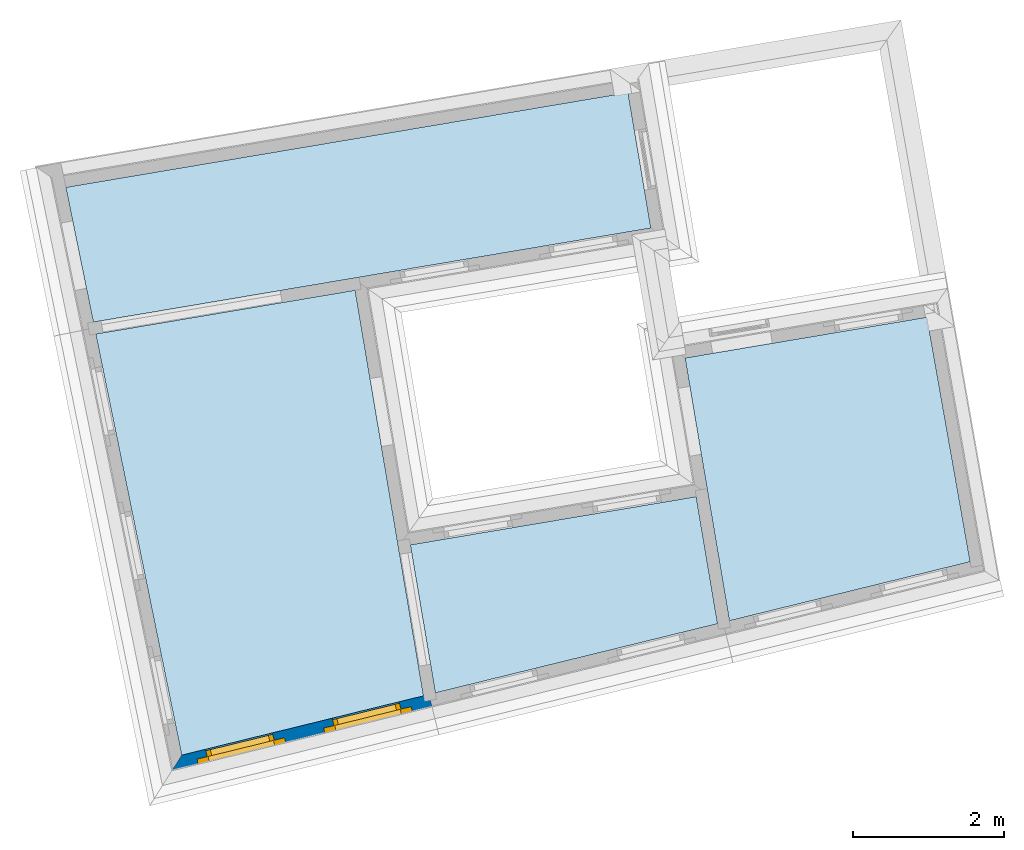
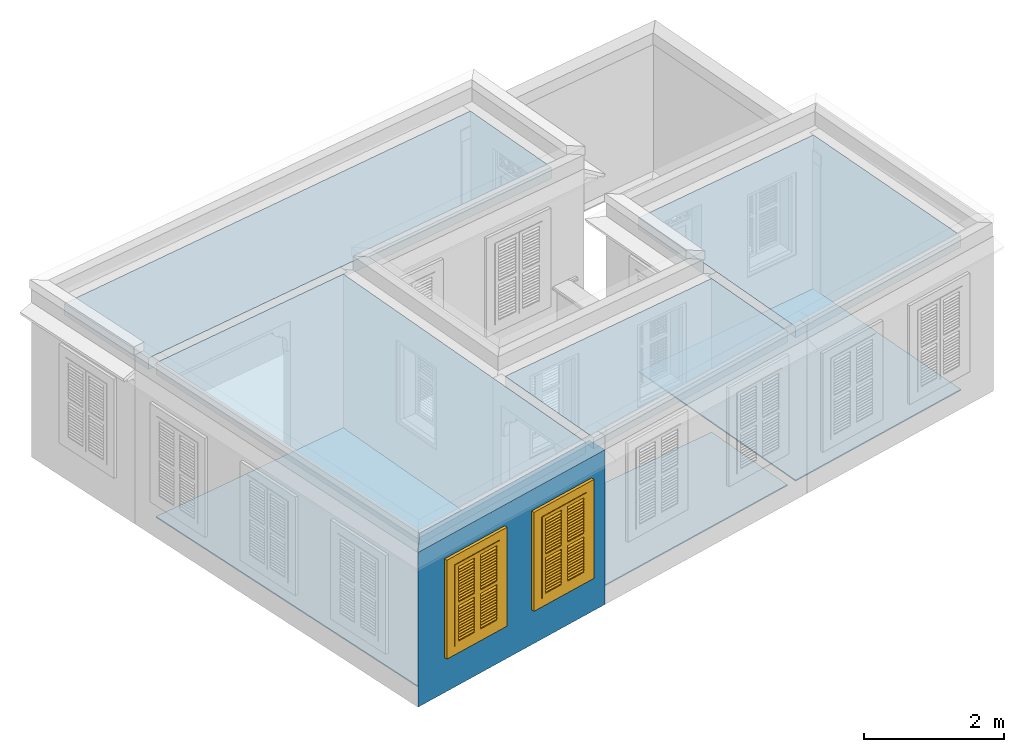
# One storey, part 1 of 12: 7 slabs, 2 windows, 1 wall, 2 openings.
"""IFC4 building model written with IfcOpenShell, lengths in metres."""

from ifc_helpers import new_model, si_unit, frame, origin, origin_with_axes, place, context, subcontext, project, spatial, polyline, outline, extrude, faceted_brep, source, transform, mapped, material, layer, layer_set, layer_usage, type_object, type_shapes, element, fill, save


model = new_model("IFC4")

# Units and contexts
model_context = context("Model", 3, world=origin_with_axes())
body_context = subcontext(model_context, "Body", "Model", "MODEL_VIEW")
ifc_project = project(units=[si_unit("PLANEANGLEUNIT", "RADIAN"), si_unit("MASSUNIT", "GRAM", prefix="KILO"), si_unit("FORCEUNIT", "NEWTON", prefix="KILO"), si_unit("LENGTHUNIT", "METRE"), si_unit("AREAUNIT", "SQUARE_METRE"), si_unit("VOLUMEUNIT", "CUBIC_METRE")], contexts=[model_context, model_context])

# Site, building, storey
site_placement = place(None, origin_with_axes())
site = spatial("IfcSite", under=ifc_project, at=site_placement, Name="Site plot-6", CompositionType="ELEMENT")
building_placement = place(None, origin_with_axes())
building = spatial("IfcBuilding", under=site, at=building_placement, Name="Building plot-6", CompositionType="ELEMENT")
storey_placement = place(None, frame((0.0, 0.0, 3.6), z_axis=(0.0, 0.0, 1.0), x_axis=(1.0, 0.0, 0.0)))
storey = spatial("IfcBuildingStorey", under=building, at=storey_placement, Name="plot-6 1", CompositionType="ELEMENT", Elevation=3.6)

# Slabs
slab_1_placement = place(storey_placement, frame((-2.65448575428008, 1.67836600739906, 2.5)))
element("IfcSlab", 1, at=slab_1_placement, inside=storey, Name="My Slab", ObjectType="Slab", PredefinedType="FLOOR", context=body_context, shape_type="SweptSolid", body=[
    extrude(outline(polyline([(0.0, 0.0), (0.585438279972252, -3.47151243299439), (3.76574565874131, -2.69147856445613), (3.19492557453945, 0.538794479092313), (0.0, 0.0)])), origin_with_axes(), (0.0, 0.0, 1.0), 0.2),
])
slab_2_placement = place(storey_placement, frame((-2.65448575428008, 1.67836600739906, 0.0)))
element("IfcSlab", 2, at=slab_2_placement, inside=storey, Name="My Slab", ObjectType="Slab", PredefinedType="FLOOR", context=body_context, shape_type="SweptSolid", body=[
    extrude(outline(polyline([(0.0, 0.0), (0.585438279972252, -3.47151243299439), (3.76574565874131, -2.69147856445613), (3.19492557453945, 0.538794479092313), (0.0, 0.0)])), origin_with_axes(), (0.0, 0.0, 1.0), 0.02),
])
slab_3_placement = place(storey_placement, frame((-6.28261815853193, -0.789783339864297, 2.5)))
element("IfcSlab", 3, at=slab_3_placement, inside=storey, Name="My Slab", ObjectType="Slab", PredefinedType="FLOOR", context=body_context, shape_type="SweptSolid", body=[
    extrude(outline(polyline([(0.0, 0.0), (0.329848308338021, -1.9559235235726), (4.05775633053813, -1.04157966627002), (3.77475088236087, 0.636576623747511), (0.0, 0.0)])), origin_with_axes(), (0.0, 0.0, 1.0), 0.2),
])
slab_4_placement = place(storey_placement, frame((-6.28261815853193, -0.789783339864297, 0.0)))
element("IfcSlab", 4, at=slab_4_placement, inside=storey, Name="My Slab", ObjectType="Slab", PredefinedType="FLOOR", context=body_context, shape_type="SweptSolid", body=[
    extrude(outline(polyline([(0.0, 0.0), (0.329848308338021, -1.9559235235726), (4.05775633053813, -1.04157966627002), (3.77475088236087, 0.636576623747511), (0.0, 0.0)])), origin_with_axes(), (0.0, 0.0, 1.0), 0.02),
])
slab_5_placement = place(storey_placement, frame((-3.10605318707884, 3.39389619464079, 2.5)))
element("IfcSlab", 5, at=slab_5_placement, inside=storey, Name="My Slab", ObjectType="Slab", PredefinedType="FLOOR", context=body_context, shape_type="SweptSolid", body=[
    extrude(outline(polyline([(0.0, 0.0), (-0.301954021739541, 1.7905169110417), (-7.72700237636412, 0.538351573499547), (-7.36373226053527, -1.24182494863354), (0.0, 0.0)])), origin_with_axes(), (0.0, 0.0, 1.0), 0.2),
])
slab_6_placement = place(storey_placement, frame((-7.01196948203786, 2.5729405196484, 2.5)))
element("IfcSlab", 6, at=slab_6_placement, inside=storey, Name="My Slab", ObjectType="Slab", PredefinedType="FLOOR", context=body_context, shape_type="SweptSolid", body=[
    extrude(outline(polyline([(0.0, 0.0), (-3.42580625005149, -0.577730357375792), (-2.29069062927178, -6.14027483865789), (0.90338527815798, -5.35686396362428), (0.0, 0.0)])), origin_with_axes(), (0.0, 0.0, 1.0), 0.2),
])
slab_7_placement = place(storey_placement, frame((-7.01196948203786, 2.5729405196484, 0.0)))
element("IfcSlab", 7, at=slab_7_placement, inside=storey, Name="My Slab", ObjectType="Slab", PredefinedType="FLOOR", context=body_context, shape_type="SweptSolid", body=[
    extrude(outline(polyline([(0.0, 0.0), (-3.42580625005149, -0.577730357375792), (-2.29069062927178, -6.14027483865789), (0.90338527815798, -5.35686396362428), (0.0, 0.0)])), origin_with_axes(), (0.0, 0.0, 1.0), 0.02),
])

# Wall, openings, windows
ifc_material = material(Name="Masonry")
ifc_layer = layer(ifc_material, 0.33, ventilated=False)
ifc_layer_set = layer_set([ifc_layer], Name="exterior_0.08_0.25")
ifc_layer_usage = layer_usage(ifc_layer_set, "AXIS2", "POSITIVE", -0.25)
wall_type = type_object("IfcWallType", Name="exterior_0.08_0.25", PredefinedType="SOLIDWALL", material=ifc_layer_set)
wall_placement = place(storey_placement, frame((-9.36440922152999, -3.66485067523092, 0.0), z_axis=(0.0, 0.0, 1.0), x_axis=(0.971213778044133, 0.238209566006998, 0.0)))
wall = element("IfcWall", 8, at=wall_placement, inside=storey, type_object=wall_type, material=ifc_layer_usage, Name="exterior", context=body_context, shape_type="SweptSolid", body=[
    extrude(outline(polyline([(0.0832009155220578, 0.0800000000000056), (-0.260002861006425, -0.250000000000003), (3.44627686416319, -0.25), (3.44627686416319, 0.08), (0.0832009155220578, 0.0800000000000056)])), origin_with_axes(), (0.0, 0.0, 1.0), 2.7),
])
opening_1_placement = place(wall_placement, frame((0.406569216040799, 0.0, 0.75)))
opening_1 = element("IfcOpeningElement", 9, at=opening_1_placement, cuts=wall, Name="My Opening", ObjectType="Opening", context=body_context, shape_type="SweptSolid", body=[
    extrude(outline(polyline([(0.0, -0.27), (0.91, -0.27), (0.91, 1.1), (-4.9960036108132e-16, 1.1), (0.0, -0.27)])), origin_with_axes(), (0.0, 0.0, 1.0), 1.445),
])
opening_2_placement = place(wall_placement, frame((2.12970764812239, 0.0, 0.75)))
opening_2 = element("IfcOpeningElement", 10, at=opening_2_placement, cuts=wall, Name="My Opening", ObjectType="Opening", context=body_context, shape_type="SweptSolid", body=[
    extrude(outline(polyline([(0.0, -0.27), (0.91, -0.27), (0.910000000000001, 1.1), (4.44089209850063e-16, 1.1), (0.0, -0.27)])), origin_with_axes(), (0.0, 0.0, 1.0), 1.445),
])
window_type = type_object("IfcWindowType", Name="shuttered_shorter", PartitioningType="DOUBLE_PANEL_HORIZONTAL", PredefinedType="NOTDEFINED")
shared_shape = source(origin(), body_context, "Body", "Brep", [
    faceted_brep([(0.393, 0.0, 0.622), (0.074, 0.0, 0.622), (0.074, 0.0, 0.632), (0.393, 0.0, 0.632), (0.074, -0.04, 0.592), (0.393, -0.04, 0.592), (0.393, -0.04, 0.582), (0.074, -0.04, 0.582), (0.517, 0.0, 0.682), (0.836, 0.0, 0.682), (0.836, 0.0, 0.672), (0.517, 0.0, 0.672), (0.517, -0.04, 0.642), (0.836, -0.04, 0.642), (0.836, -0.04, 0.632), (0.517, -0.04, 0.632), (0.517, 0.0, 0.632), (0.836, 0.0, 0.632), (0.836, 0.0, 0.622), (0.517, 0.0, 0.622), (0.517, -0.04, 0.592), (0.836, -0.04, 0.592), (0.836, -0.04, 0.582), (0.517, -0.04, 0.582), (0.517, 0.0, 0.232), (0.836, 0.0, 0.232), (0.836, 0.0, 0.222), (0.517, 0.0, 0.222), (0.517, -0.04, 0.192), (0.836, -0.04, 0.192), (0.836, -0.04, 0.182), (0.517, -0.04, 0.182), (0.517, 0.0, 0.532), (0.836, 0.0, 0.532), (0.836, 0.0, 0.522), (0.517, 0.0, 0.522), (0.517, -0.04, 0.492), (0.836, -0.04, 0.492), (0.836, -0.04, 0.482), (0.517, -0.04, 0.482), (0.517, 0.0, 0.482), (0.836, 0.0, 0.482), (0.836, 0.0, 0.472), (0.517, 0.0, 0.472), (0.517, -0.04, 0.442), (0.836, -0.04, 0.442), (0.836, -0.04, 0.432), (0.517, -0.04, 0.432), (0.517, 0.0, 0.582), (0.836, 0.0, 0.582), (0.836, 0.0, 0.572), (0.517, 0.0, 0.572), (0.517, -0.04, 0.542), (0.836, -0.04, 0.542), (0.836, -0.04, 0.532), (0.517, -0.04, 0.532), (0.517, 0.0, 0.182), (0.836, 0.0, 0.182), (0.836, 0.0, 0.172), (0.517, 0.0, 0.172), (0.517, -0.04, 0.142), (0.836, -0.04, 0.142), (0.836, -0.04, 0.132), (0.517, -0.04, 0.132), (0.517, 0.0, 0.382), (0.836, 0.0, 0.382), (0.836, 0.0, 0.372), (0.517, 0.0, 0.372), (0.517, -0.04, 0.342), (0.836, -0.04, 0.342), (0.836, -0.04, 0.332), (0.517, -0.04, 0.332), (0.517, 0.0, 0.432), (0.836, 0.0, 0.432), (0.836, 0.0, 0.422), (0.517, 0.0, 0.422), (0.517, -0.04, 0.392), (0.836, -0.04, 0.392), (0.836, -0.04, 0.382), (0.517, -0.04, 0.382), (0.517, 0.0, 0.132), (0.836, 0.0, 0.132), (0.836, 0.0, 0.122), (0.517, 0.0, 0.122), (0.517, -0.04, 0.092), (0.836, -0.04, 0.092), (0.836, -0.04, 0.082), (0.517, -0.04, 0.082), (0.517, 0.0, 0.282), (0.836, 0.0, 0.282), (0.836, 0.0, 0.272), (0.517, 0.0, 0.272), (0.517, -0.04, 0.242), (0.836, -0.04, 0.242), (0.836, -0.04, 0.232), (0.517, -0.04, 0.232), (0.517, 0.0, 0.332), (0.836, 0.0, 0.332), (0.836, 0.0, 0.322), (0.517, 0.0, 0.322), (0.517, -0.04, 0.292), (0.836, -0.04, 0.292), (0.836, -0.04, 0.282), (0.517, -0.04, 0.282), (0.517, 0.0, 1.362667), (0.836, 0.0, 1.362667), (0.836, 0.0, 1.352667), (0.517, 0.0, 1.352667), (0.517, -0.04, 1.322667), (0.836, -0.04, 1.322667), (0.836, -0.04, 1.312667), (0.517, -0.04, 1.312667), (0.517, 0.0, 1.312667), (0.836, 0.0, 1.312667), (0.836, 0.0, 1.302667), (0.517, 0.0, 1.302667), (0.517, -0.04, 1.272667), (0.836, -0.04, 1.272667), (0.836, -0.04, 1.262667), (0.517, -0.04, 1.262667), (0.517, 0.0, 0.912667), (0.836, 0.0, 0.912667), (0.836, 0.0, 0.902667), (0.517, 0.0, 0.902667), (0.517, -0.04, 0.872667), (0.836, -0.04, 0.872667), (0.836, -0.04, 0.862667), (0.517, -0.04, 0.862667), (0.517, 0.0, 1.212667), (0.836, 0.0, 1.212667), (0.836, 0.0, 1.202667), (0.517, 0.0, 1.202667), (0.517, -0.04, 1.172667), (0.836, -0.04, 1.172667), (0.836, -0.04, 1.162667), (0.517, -0.04, 1.162667), (0.517, 0.0, 1.162667), (0.836, 0.0, 1.162667), (0.836, 0.0, 1.152667), (0.517, 0.0, 1.152667), (0.517, -0.04, 1.122667), (0.836, -0.04, 1.122667), (0.836, -0.04, 1.112667), (0.517, -0.04, 1.112667), (0.517, 0.0, 1.262667), (0.836, 0.0, 1.262667), (0.836, 0.0, 1.252667), (0.517, 0.0, 1.252667), (0.517, -0.04, 1.222667), (0.836, -0.04, 1.222667), (0.836, -0.04, 1.212667), (0.517, -0.04, 1.212667), (0.517, 0.0, 0.862667), (0.836, 0.0, 0.862667), (0.836, 0.0, 0.852667), (0.517, 0.0, 0.852667), (0.517, -0.04, 0.822667), (0.836, -0.04, 0.822667), (0.836, -0.04, 0.812667), (0.517, -0.04, 0.812667), (0.517, 0.0, 1.062667), (0.836, 0.0, 1.062667), (0.836, 0.0, 1.052667), (0.517, 0.0, 1.052667), (0.517, -0.04, 1.022667), (0.836, -0.04, 1.022667), (0.836, -0.04, 1.012667), (0.517, -0.04, 1.012667), (0.517, 0.0, 1.112667), (0.836, 0.0, 1.112667), (0.836, 0.0, 1.102667), (0.517, 0.0, 1.102667), (0.517, -0.04, 1.072667), (0.836, -0.04, 1.072667), (0.836, -0.04, 1.062667), (0.517, -0.04, 1.062667), (0.517, 0.0, 0.812667), (0.836, 0.0, 0.812667), (0.836, 0.0, 0.802667), (0.517, 0.0, 0.802667), (0.517, -0.04, 0.772667), (0.836, -0.04, 0.772667), (0.836, -0.04, 0.762667), (0.517, -0.04, 0.762667), (0.517, 0.0, 0.962667), (0.836, 0.0, 0.962667), (0.836, 0.0, 0.952667), (0.517, 0.0, 0.952667), (0.517, -0.04, 0.922667), (0.836, -0.04, 0.922667), (0.836, -0.04, 0.912667), (0.517, -0.04, 0.912667), (0.517, 0.0, 1.012667), (0.836, 0.0, 1.012667), (0.836, 0.0, 1.002667), (0.517, 0.0, 1.002667), (0.517, -0.04, 0.972667), (0.836, -0.04, 0.972667), (0.836, -0.04, 0.962667), (0.517, -0.04, 0.962667), (0.074, 0.0, 0.682), (0.393, 0.0, 0.682), (0.393, 0.0, 0.672), (0.074, 0.0, 0.672), (0.074, -0.04, 0.642), (0.393, -0.04, 0.642), (0.393, -0.04, 0.632), (0.074, -0.04, 0.632), (0.074, 0.0, 0.232), (0.393, 0.0, 0.232), (0.393, 0.0, 0.222), (0.074, 0.0, 0.222), (0.074, -0.04, 0.192), (0.393, -0.04, 0.192), (0.393, -0.04, 0.182), (0.074, -0.04, 0.182), (0.074, 0.0, 0.532), (0.393, 0.0, 0.532), (0.393, 0.0, 0.522), (0.074, 0.0, 0.522), (0.074, -0.04, 0.492), (0.393, -0.04, 0.492), (0.393, -0.04, 0.482), (0.074, -0.04, 0.482), (0.074, 0.0, 0.482), (0.393, 0.0, 0.482), (0.393, 0.0, 0.472), (0.074, 0.0, 0.472), (0.074, -0.04, 0.442), (0.393, -0.04, 0.442), (0.393, -0.04, 0.432), (0.074, -0.04, 0.432), (0.074, 0.0, 0.582), (0.393, 0.0, 0.582), (0.393, 0.0, 0.572), (0.074, 0.0, 0.572), (0.074, -0.04, 0.542), (0.393, -0.04, 0.542), (0.393, -0.04, 0.532), (0.074, -0.04, 0.532), (0.074, 0.0, 0.182), (0.393, 0.0, 0.182), (0.393, 0.0, 0.172), (0.074, 0.0, 0.172), (0.074, -0.04, 0.142), (0.393, -0.04, 0.142), (0.393, -0.04, 0.132), (0.074, -0.04, 0.132), (0.074, 0.0, 0.382), (0.393, 0.0, 0.382), (0.393, 0.0, 0.372), (0.074, 0.0, 0.372), (0.074, -0.04, 0.342), (0.393, -0.04, 0.342), (0.393, -0.04, 0.332), (0.074, -0.04, 0.332), (0.074, 0.0, 0.432), (0.393, 0.0, 0.432), (0.393, 0.0, 0.422), (0.074, 0.0, 0.422), (0.074, -0.04, 0.392), (0.393, -0.04, 0.392), (0.393, -0.04, 0.382), (0.074, -0.04, 0.382), (0.074, 0.0, 0.132), (0.393, 0.0, 0.132), (0.393, 0.0, 0.122), (0.074, 0.0, 0.122), (0.074, -0.04, 0.092), (0.393, -0.04, 0.092), (0.393, -0.04, 0.082), (0.074, -0.04, 0.082), (0.074, 0.0, 0.282), (0.393, 0.0, 0.282), (0.393, 0.0, 0.272), (0.074, 0.0, 0.272), (0.074, -0.04, 0.242), (0.393, -0.04, 0.242), (0.393, -0.04, 0.232), (0.074, -0.04, 0.232), (0.074, 0.0, 0.332), (0.393, 0.0, 0.332), (0.393, 0.0, 0.322), (0.074, 0.0, 0.322), (0.074, -0.04, 0.292), (0.393, -0.04, 0.292), (0.393, -0.04, 0.282), (0.074, -0.04, 0.282), (0.074, 0.0, 1.362667), (0.393, 0.0, 1.362667), (0.393, 0.0, 1.352667), (0.074, 0.0, 1.352667), (0.074, -0.04, 1.322667), (0.393, -0.04, 1.322667), (0.393, -0.04, 1.312667), (0.074, -0.04, 1.312667), (0.074, 0.0, 1.312667), (0.393, 0.0, 1.312667), (0.393, 0.0, 1.302667), (0.074, 0.0, 1.302667), (0.074, -0.04, 1.272667), (0.393, -0.04, 1.272667), (0.393, -0.04, 1.262667), (0.074, -0.04, 1.262667), (0.074, 0.0, 0.912667), (0.393, 0.0, 0.912667), (0.393, 0.0, 0.902667), (0.074, 0.0, 0.902667), (0.074, -0.04, 0.872667), (0.393, -0.04, 0.872667), (0.393, -0.04, 0.862667), (0.074, -0.04, 0.862667), (0.074, 0.0, 1.212667), (0.393, 0.0, 1.212667), (0.393, 0.0, 1.202667), (0.074, 0.0, 1.202667), (0.074, -0.04, 1.172667), (0.393, -0.04, 1.172667), (0.393, -0.04, 1.162667), (0.074, -0.04, 1.162667), (0.074, 0.0, 1.162667), (0.393, 0.0, 1.162667), (0.393, 0.0, 1.152667), (0.074, 0.0, 1.152667), (0.074, -0.04, 1.122667), (0.393, -0.04, 1.122667), (0.393, -0.04, 1.112667), (0.074, -0.04, 1.112667), (0.074, 0.0, 1.262667), (0.393, 0.0, 1.262667), (0.393, 0.0, 1.252667), (0.074, 0.0, 1.252667), (0.074, -0.04, 1.222667), (0.393, -0.04, 1.222667), (0.393, -0.04, 1.212667), (0.074, -0.04, 1.212667), (0.074, 0.0, 0.862667), (0.393, 0.0, 0.862667), (0.393, 0.0, 0.852667), (0.074, 0.0, 0.852667), (0.074, -0.04, 0.822667), (0.393, -0.04, 0.822667), (0.393, -0.04, 0.812667), (0.074, -0.04, 0.812667), (0.074, 0.0, 1.062667), (0.393, 0.0, 1.062667), (0.393, 0.0, 1.052667), (0.074, 0.0, 1.052667), (0.074, -0.04, 1.022667), (0.393, -0.04, 1.022667), (0.393, -0.04, 1.012667), (0.074, -0.04, 1.012667), (0.074, 0.0, 1.112667), (0.393, 0.0, 1.112667), (0.393, 0.0, 1.102667), (0.074, 0.0, 1.102667), (0.074, -0.04, 1.072667), (0.393, -0.04, 1.072667), (0.393, -0.04, 1.062667), (0.074, -0.04, 1.062667), (0.074, 0.0, 0.812667), (0.393, 0.0, 0.812667), (0.393, 0.0, 0.802667), (0.074, 0.0, 0.802667), (0.074, -0.04, 0.772667), (0.393, -0.04, 0.772667), (0.393, -0.04, 0.762667), (0.074, -0.04, 0.762667), (0.074, 0.0, 0.962667), (0.393, 0.0, 0.962667), (0.393, 0.0, 0.952667), (0.074, 0.0, 0.952667), (0.074, -0.04, 0.922667), (0.393, -0.04, 0.922667), (0.393, -0.04, 0.912667), (0.074, -0.04, 0.912667), (0.074, 0.0, 1.012667), (0.393, 0.0, 1.012667), (0.393, 0.0, 1.002667), (0.074, 0.0, 1.002667), (0.074, -0.04, 0.972667), (0.393, -0.04, 0.972667), (0.393, -0.04, 0.962667), (0.074, -0.04, 0.962667), (0.517, -0.04, 0.072), (0.457, -0.04, 0.012), (0.896, -0.04, 0.012), (0.836, -0.04, 0.072), (0.457, -0.04, 0.692667), (0.517, -0.04, 0.692667), (0.457, 0.0, 0.012), (0.896, 0.0, 0.012), (0.836, -0.04, 0.692667), (0.896, -0.04, 0.692667), (0.836, 0.0, 0.072), (0.517, 0.0, 0.072), (0.457, 0.0, 0.692667), (0.517, 0.0, 0.692667), (0.517, -0.04, 0.752666), (0.457, -0.04, 0.752666), (0.896, 0.0, 0.692667), (0.836, 0.0, 0.692667), (0.836, -0.04, 0.752666), (0.896, -0.04, 0.752666), (0.457, 0.0, 0.752666), (0.457, -0.04, 1.433333), (0.517, -0.04, 1.373333), (0.896, 0.0, 0.752666), (0.836, -0.04, 1.373333), (0.896, -0.04, 1.433333), (0.457, 0.0, 1.433333), (0.517, 0.0, 0.752666), (0.836, 0.0, 0.752666), (0.517, 0.0, 1.373333), (0.896, 0.0, 1.433333), (0.836, 0.0, 1.373333), (0.074, -0.04, 0.072), (0.014, -0.04, 0.012), (0.453, -0.04, 0.012), (0.393, -0.04, 0.072), (0.014, -0.04, 0.692667), (0.074, -0.04, 0.692667), (0.014, 0.0, 0.012), (0.453, 0.0, 0.012), (0.393, -0.04, 0.692667), (0.453, -0.04, 0.692667), (0.393, 0.0, 0.072), (0.074, 0.0, 0.072), (0.014, 0.0, 0.692667), (0.074, 0.0, 0.692667), (0.074, -0.04, 0.752666), (0.014, -0.04, 0.752666), (0.453, 0.0, 0.692667), (0.393, 0.0, 0.692667), (0.393, -0.04, 0.752666), (0.453, -0.04, 0.752666), (0.014, 0.0, 0.752666), (0.014, -0.04, 1.433333), (0.074, -0.04, 1.373333), (0.453, 0.0, 0.752666), (0.393, -0.04, 1.373333), (0.453, -0.04, 1.433333), (0.014, 0.0, 1.433333), (0.074, 0.0, 0.752666), (0.393, 0.0, 0.752666), (0.074, 0.0, 1.373333), (0.453, 0.0, 1.433333), (0.393, 0.0, 1.373333), (0.0, 0.33, 1.445), (0.91, 0.33, 1.445), (0.85, 0.33, 1.385), (0.06, 0.33, 1.385), (0.91, 0.25, 1.445), (0.0, 0.25, 1.445), (0.91, 0.25, 1.445), (0.85, 0.33, 0.06), (0.91, 0.33, 0.0), (0.85, 0.25, 1.385), (0.06, 0.25, 1.385), (0.0, 0.33, 0.0), (0.06, 0.33, 0.06), (0.0, 0.25, 0.0), (0.91, 0.25, 0.0), (0.85, 0.25, 0.06), (0.06, 0.25, 0.06), (1.05, 0.25, 1.585), (-0.14, 0.25, 1.585), (-0.14, -0.03, 1.585), (1.05, -0.03, 1.585), (0.9, -0.03, 1.435), (0.01, -0.03, 1.435), (0.01, 0.25, 1.435), (0.9, 0.25, 1.435), (0.9, 0.25, 0.01), (0.9, -0.03, 0.01), (1.05, -0.03, -0.14), (1.05, 0.25, -0.14), (0.01, -0.03, 0.01), (0.01, 0.25, 0.01), (-0.14, -0.03, -0.14), (-0.14, 0.25, -0.14)], [[[0, 1, 2, 3]], [[4, 5, 3, 2]], [[5, 6, 0, 3]], [[1, 0, 6, 7]], [[2, 1, 7, 4]], [[5, 4, 7, 6]], [[8, 9, 10, 11]], [[12, 13, 9, 8]], [[13, 14, 10, 9]], [[14, 15, 11, 10]], [[15, 12, 8, 11]], [[13, 12, 15, 14]], [[16, 17, 18, 19]], [[20, 21, 17, 16]], [[21, 22, 18, 17]], [[22, 23, 19, 18]], [[23, 20, 16, 19]], [[21, 20, 23, 22]], [[24, 25, 26, 27]], [[28, 29, 25, 24]], [[29, 30, 26, 25]], [[30, 31, 27, 26]], [[31, 28, 24, 27]], [[29, 28, 31, 30]], [[32, 33, 34, 35]], [[36, 37, 33, 32]], [[37, 38, 34, 33]], [[38, 39, 35, 34]], [[39, 36, 32, 35]], [[37, 36, 39, 38]], [[40, 41, 42, 43]], [[44, 45, 41, 40]], [[45, 46, 42, 41]], [[46, 47, 43, 42]], [[47, 44, 40, 43]], [[45, 44, 47, 46]], [[48, 49, 50, 51]], [[52, 53, 49, 48]], [[53, 54, 50, 49]], [[54, 55, 51, 50]], [[55, 52, 48, 51]], [[53, 52, 55, 54]], [[56, 57, 58, 59]], [[60, 61, 57, 56]], [[61, 62, 58, 57]], [[62, 63, 59, 58]], [[63, 60, 56, 59]], [[61, 60, 63, 62]], [[64, 65, 66, 67]], [[68, 69, 65, 64]], [[69, 70, 66, 65]], [[70, 71, 67, 66]], [[71, 68, 64, 67]], [[69, 68, 71, 70]], [[72, 73, 74, 75]], [[76, 77, 73, 72]], [[77, 78, 74, 73]], [[78, 79, 75, 74]], [[79, 76, 72, 75]], [[77, 76, 79, 78]], [[80, 81, 82, 83]], [[84, 85, 81, 80]], [[85, 86, 82, 81]], [[86, 87, 83, 82]], [[87, 84, 80, 83]], [[85, 84, 87, 86]], [[88, 89, 90, 91]], [[92, 93, 89, 88]], [[93, 94, 90, 89]], [[94, 95, 91, 90]], [[95, 92, 88, 91]], [[93, 92, 95, 94]], [[96, 97, 98, 99]], [[100, 101, 97, 96]], [[101, 102, 98, 97]], [[102, 103, 99, 98]], [[103, 100, 96, 99]], [[101, 100, 103, 102]], [[104, 105, 106, 107]], [[108, 109, 105, 104]], [[109, 110, 106, 105]], [[110, 111, 107, 106]], [[111, 108, 104, 107]], [[109, 108, 111, 110]], [[112, 113, 114, 115]], [[116, 117, 113, 112]], [[117, 118, 114, 113]], [[118, 119, 115, 114]], [[119, 116, 112, 115]], [[117, 116, 119, 118]], [[120, 121, 122, 123]], [[124, 125, 121, 120]], [[125, 126, 122, 121]], [[126, 127, 123, 122]], [[127, 124, 120, 123]], [[125, 124, 127, 126]], [[128, 129, 130, 131]], [[132, 133, 129, 128]], [[133, 134, 130, 129]], [[134, 135, 131, 130]], [[135, 132, 128, 131]], [[133, 132, 135, 134]], [[136, 137, 138, 139]], [[140, 141, 137, 136]], [[141, 142, 138, 137]], [[142, 143, 139, 138]], [[139, 143, 140, 136]], [[141, 140, 143, 142]], [[144, 145, 146, 147]], [[148, 149, 145, 144]], [[149, 150, 146, 145]], [[150, 151, 147, 146]], [[151, 148, 144, 147]], [[149, 148, 151, 150]], [[152, 153, 154, 155]], [[156, 157, 153, 152]], [[157, 158, 154, 153]], [[158, 159, 155, 154]], [[159, 156, 152, 155]], [[157, 156, 159, 158]], [[160, 161, 162, 163]], [[164, 165, 161, 160]], [[165, 166, 162, 161]], [[166, 167, 163, 162]], [[167, 164, 160, 163]], [[165, 164, 167, 166]], [[168, 169, 170, 171]], [[172, 173, 169, 168]], [[173, 174, 170, 169]], [[174, 175, 171, 170]], [[175, 172, 168, 171]], [[173, 172, 175, 174]], [[176, 177, 178, 179]], [[180, 181, 177, 176]], [[181, 182, 178, 177]], [[182, 183, 179, 178]], [[183, 180, 176, 179]], [[181, 180, 183, 182]], [[184, 185, 186, 187]], [[188, 189, 185, 184]], [[189, 190, 186, 185]], [[190, 191, 187, 186]], [[191, 188, 184, 187]], [[189, 188, 191, 190]], [[192, 193, 194, 195]], [[196, 197, 193, 192]], [[197, 198, 194, 193]], [[198, 199, 195, 194]], [[199, 196, 192, 195]], [[197, 196, 199, 198]], [[200, 201, 202, 203]], [[204, 205, 201, 200]], [[205, 206, 202, 201]], [[206, 207, 203, 202]], [[207, 204, 200, 203]], [[205, 204, 207, 206]], [[208, 209, 210, 211]], [[212, 213, 209, 208]], [[213, 214, 210, 209]], [[214, 215, 211, 210]], [[215, 212, 208, 211]], [[213, 212, 215, 214]], [[216, 217, 218, 219]], [[220, 221, 217, 216]], [[221, 222, 218, 217]], [[222, 223, 219, 218]], [[223, 220, 216, 219]], [[221, 220, 223, 222]], [[224, 225, 226, 227]], [[228, 229, 225, 224]], [[229, 230, 226, 225]], [[230, 231, 227, 226]], [[231, 228, 224, 227]], [[229, 228, 231, 230]], [[232, 233, 234, 235]], [[236, 237, 233, 232]], [[237, 238, 234, 233]], [[238, 239, 235, 234]], [[239, 236, 232, 235]], [[237, 236, 239, 238]], [[240, 241, 242, 243]], [[244, 245, 241, 240]], [[245, 246, 242, 241]], [[246, 247, 243, 242]], [[247, 244, 240, 243]], [[245, 244, 247, 246]], [[248, 249, 250, 251]], [[252, 253, 249, 248]], [[253, 254, 250, 249]], [[254, 255, 251, 250]], [[255, 252, 248, 251]], [[253, 252, 255, 254]], [[256, 257, 258, 259]], [[260, 261, 257, 256]], [[261, 262, 258, 257]], [[262, 263, 259, 258]], [[263, 260, 256, 259]], [[261, 260, 263, 262]], [[264, 265, 266, 267]], [[268, 269, 265, 264]], [[269, 270, 266, 265]], [[270, 271, 267, 266]], [[271, 268, 264, 267]], [[269, 268, 271, 270]], [[272, 273, 274, 275]], [[276, 277, 273, 272]], [[277, 278, 274, 273]], [[278, 279, 275, 274]], [[279, 276, 272, 275]], [[277, 276, 279, 278]], [[280, 281, 282, 283]], [[284, 285, 281, 280]], [[285, 286, 282, 281]], [[286, 287, 283, 282]], [[287, 284, 280, 283]], [[285, 284, 287, 286]], [[288, 289, 290, 291]], [[292, 293, 289, 288]], [[293, 294, 290, 289]], [[294, 295, 291, 290]], [[295, 292, 288, 291]], [[293, 292, 295, 294]], [[296, 297, 298, 299]], [[300, 301, 297, 296]], [[301, 302, 298, 297]], [[302, 303, 299, 298]], [[303, 300, 296, 299]], [[301, 300, 303, 302]], [[304, 305, 306, 307]], [[308, 309, 305, 304]], [[309, 310, 306, 305]], [[310, 311, 307, 306]], [[311, 308, 304, 307]], [[309, 308, 311, 310]], [[312, 313, 314, 315]], [[316, 317, 313, 312]], [[317, 318, 314, 313]], [[318, 319, 315, 314]], [[319, 316, 312, 315]], [[317, 316, 319, 318]], [[320, 321, 322, 323]], [[324, 325, 321, 320]], [[325, 326, 322, 321]], [[326, 327, 323, 322]], [[327, 324, 320, 323]], [[325, 324, 327, 326]], [[328, 329, 330, 331]], [[332, 333, 329, 328]], [[333, 334, 330, 329]], [[334, 335, 331, 330]], [[335, 332, 328, 331]], [[333, 332, 335, 334]], [[336, 337, 338, 339]], [[340, 341, 337, 336]], [[341, 342, 338, 337]], [[342, 343, 339, 338]], [[343, 340, 336, 339]], [[341, 340, 343, 342]], [[344, 345, 346, 347]], [[348, 349, 345, 344]], [[349, 350, 346, 345]], [[350, 351, 347, 346]], [[351, 348, 344, 347]], [[349, 348, 351, 350]], [[352, 353, 354, 355]], [[356, 357, 353, 352]], [[357, 358, 354, 353]], [[358, 359, 355, 354]], [[359, 356, 352, 355]], [[357, 356, 359, 358]], [[360, 361, 362, 363]], [[364, 365, 361, 360]], [[365, 366, 362, 361]], [[366, 367, 363, 362]], [[367, 364, 360, 363]], [[365, 364, 367, 366]], [[368, 369, 370, 371]], [[372, 373, 369, 368]], [[373, 374, 370, 369]], [[374, 375, 371, 370]], [[375, 372, 368, 371]], [[373, 372, 375, 374]], [[376, 377, 378, 379]], [[380, 381, 377, 376]], [[381, 382, 378, 377]], [[382, 383, 379, 378]], [[383, 380, 376, 379]], [[381, 380, 383, 382]], [[384, 385, 386, 387]], [[388, 385, 384, 389]], [[390, 391, 386, 385]], [[392, 387, 386, 393]], [[384, 387, 394, 395]], [[390, 385, 388, 396]], [[389, 384, 395, 397]], [[389, 398, 399, 388]], [[390, 395, 394, 391]], [[400, 393, 386, 391]], [[387, 392, 401, 394]], [[402, 392, 393, 403]], [[396, 388, 399, 404]], [[390, 396, 397, 395]], [[392, 389, 397, 401]], [[398, 389, 392, 402]], [[405, 399, 398, 406]], [[394, 401, 400, 391]], [[407, 403, 393, 400]], [[408, 402, 403, 409]], [[404, 399, 405, 410]], [[411, 397, 396, 404]], [[397, 411, 412, 401]], [[398, 402, 412, 411]], [[406, 398, 411, 413]], [[405, 406, 408, 409]], [[401, 412, 407, 400]], [[414, 409, 403, 407]], [[402, 408, 415, 412]], [[405, 409, 414, 410]], [[404, 410, 413, 411]], [[408, 406, 413, 415]], [[412, 415, 414, 407]], [[413, 410, 414, 415]], [[416, 417, 418, 419]], [[420, 417, 416, 421]], [[422, 423, 418, 417]], [[424, 419, 418, 425]], [[416, 419, 426, 427]], [[422, 417, 420, 428]], [[421, 416, 427, 429]], [[421, 430, 431, 420]], [[422, 427, 426, 423]], [[432, 425, 418, 423]], [[419, 424, 433, 426]], [[434, 424, 425, 435]], [[428, 420, 431, 436]], [[422, 428, 429, 427]], [[424, 421, 429, 433]], [[430, 421, 424, 434]], [[437, 431, 430, 438]], [[426, 433, 432, 423]], [[439, 435, 425, 432]], [[440, 434, 435, 441]], [[436, 431, 437, 442]], [[443, 429, 428, 436]], [[429, 443, 444, 433]], [[430, 434, 444, 443]], [[438, 430, 443, 445]], [[437, 438, 440, 441]], [[433, 444, 439, 432]], [[446, 441, 435, 439]], [[434, 440, 447, 444]], [[437, 441, 446, 442]], [[436, 442, 445, 443]], [[440, 438, 445, 447]], [[444, 447, 446, 439]], [[445, 442, 446, 447]], [[448, 449, 450, 451]], [[452, 449, 448]], [[448, 453, 454]], [[448, 454, 452]], [[455, 450, 449, 456]], [[451, 450, 457, 458]], [[459, 448, 451, 460]], [[448, 459, 461, 453]], [[454, 453, 458, 457]], [[462, 452, 454]], [[454, 457, 463]], [[454, 463, 462]], [[456, 449, 452, 462]], [[450, 455, 463, 457]], [[456, 459, 460, 455]], [[460, 451, 458, 464]], [[459, 456, 462, 461]], [[464, 458, 453, 461]], [[461, 462, 463, 464]], [[455, 460, 464, 463]], [[465, 466, 467, 468]], [[469, 470, 471, 472]], [[473, 474, 469, 472]], [[465, 468, 475, 476]], [[470, 477, 478, 471]], [[474, 473, 478, 477]], [[474, 477, 479, 475]], [[470, 467, 479, 477]], [[470, 469, 468, 467]], [[474, 475, 468, 469]], [[471, 478, 480, 466]], [[473, 472, 465, 476]], [[473, 476, 480, 478]], [[466, 465, 472, 471]], [[480, 476, 475, 479]], [[480, 479, 467, 466]]]),
])
type_shapes(window_type, [shared_shape])
window_1_placement = place(storey_placement, frame((-8.90522701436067, -3.83022971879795, 0.75), z_axis=(0.0, 0.0, 1.0), x_axis=(0.883804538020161, 0.216770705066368, 0.0)))
window_1 = element("IfcWindow", 11, at=window_1_placement, inside=storey, type_object=window_type, Name="living outside window", OverallHeight=1.445, OverallWidth=0.91, context=body_context, shape_type="MappedRepresentation", body=[
    mapped(shared_shape, transform((0.0, 0.0, 0.0), scale=1.0)),
])
fill(opening_1, window_1)
window_2_placement = place(storey_placement, frame((-7.23169122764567, -3.41976166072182, 0.75), z_axis=(0.0, 0.0, 1.0), x_axis=(0.883804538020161, 0.216770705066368, 0.0)))
window_2 = element("IfcWindow", 12, at=window_2_placement, inside=storey, type_object=window_type, Name="living outside window", OverallHeight=1.445, OverallWidth=0.91, context=body_context, shape_type="MappedRepresentation", body=[
    mapped(shared_shape, transform((0.0, 0.0, 0.0), scale=1.0)),
])
fill(opening_2, window_2)

save(model, "model.ifc")
